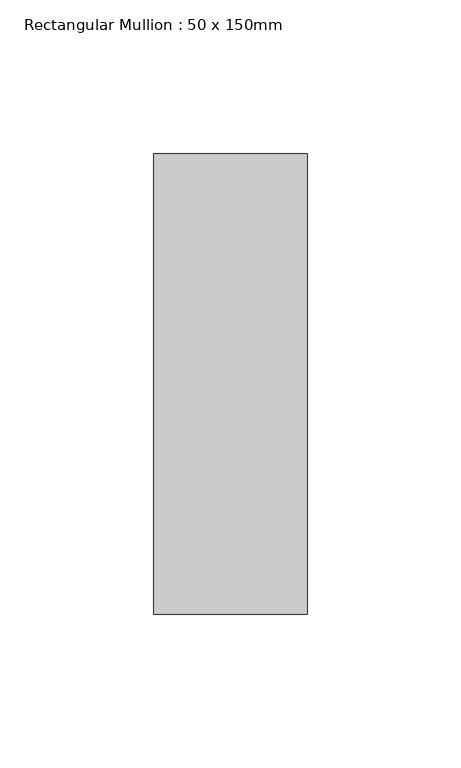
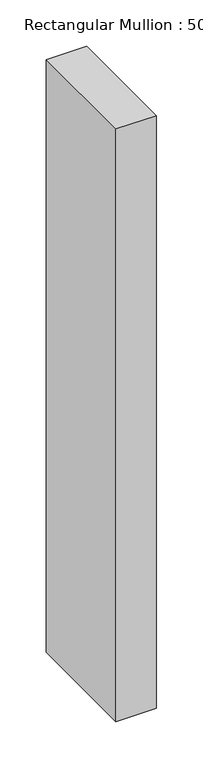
"""IFC4 building model written with IfcOpenShell, lengths in millimetres: member geometry, Rectangular Mullion : 50 x 150mm."""

from ifc_helpers import new_model, si_unit, frame, origin, place, context, project, spatial, polyline, outline, extrude, source, transform, mapped, element, save


def rectangular_mullion_50_x_150mm_7ec2f866(model_context):
    return source(origin(), model_context, "Body", "SweptSolid", [
        extrude(outline(polyline([(0.0, 75.0), (0.0, -75.0), (-50.0, -75.0), (-50.0, 75.0), (0.0, 75.0)])), frame((0.0, 0.0, -780.0), z_axis=(0.0, 0.0, 1.0), x_axis=(1.0, 0.0, 0.0)), (0.0, 0.0, 1.0), 780.0),
    ])


if __name__ == "__main__":
    model = new_model("IFC4")
    model_context = context("Model", 3, world=origin())
    ifc_project = project(units=[si_unit("LENGTHUNIT", "METRE", prefix="MILLI")], contexts=[model_context])
    site = spatial("IfcSite", under=ifc_project)
    building = spatial("IfcBuilding", under=site)
    placement = place(None, origin())
    rectangular_mullion_50_x_150mm_shape = rectangular_mullion_50_x_150mm_7ec2f866(model_context)
    element("IfcMember", 1, ObjectType="Rectangular Mullion : 50 x 150mm", at=placement, inside=building, context=model_context, shape_type="MappedRepresentation", body=[
        mapped(rectangular_mullion_50_x_150mm_shape, transform((0.0, 0.0, 0.0), x_axis=(1.0, 0.0, 0.0), y_axis=(0.0, 1.0, 0.0), z_axis=(0.0, 0.0, 1.0))),
    ])
    save(model, "model.ifc")
